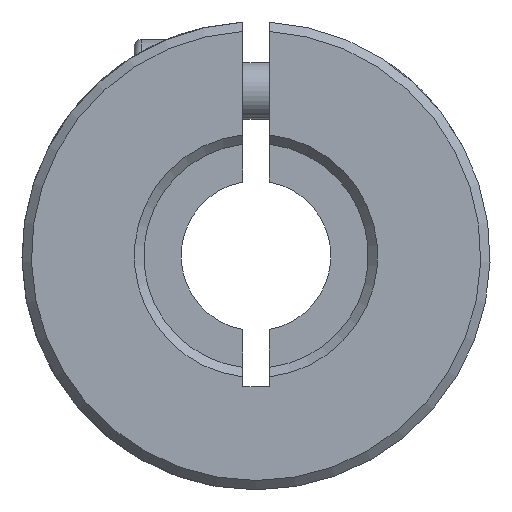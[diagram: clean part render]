
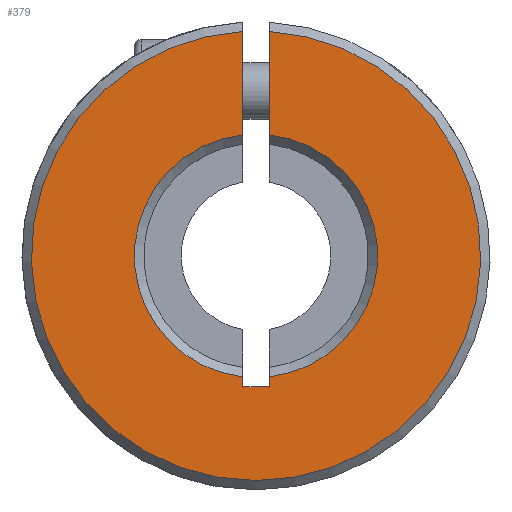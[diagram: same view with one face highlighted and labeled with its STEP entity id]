
A CAD part, front view. The second image highlights one B-rep face of the part: STEP entity #379.
In plain terms, the highlighted planar face has unit normal (0, -1, 0).
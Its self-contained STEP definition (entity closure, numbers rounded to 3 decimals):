
#158 = DIRECTION ( 'NONE',  ( 0., 0., -1. ) ) ;
#184 = ORIENTED_EDGE ( 'NONE', *, *, #1546, .T. ) ;
#379 = ADVANCED_FACE ( 'NONE', ( #5169 ), #4338, .F. ) ;
#404 = AXIS2_PLACEMENT_3D ( 'NONE', #477, #4223, #2940 ) ;
#458 = VECTOR ( 'NONE', #2277, 1000. ) ;
#477 = CARTESIAN_POINT ( 'NONE',  ( 0., 0.25, 0. ) ) ;
#501 = EDGE_CURVE ( 'NONE', #1963, #2064, #3948, .T. ) ;
#577 = CIRCLE ( 'NONE', #404, 12. ) ;
#651 = VERTEX_POINT ( 'NONE', #2440 ) ;
#687 = CARTESIAN_POINT ( 'NONE',  ( -0.7, 0.25, 6.462 ) ) ;
#747 = DIRECTION ( 'NONE',  ( 1., 0., 0. ) ) ;
#777 = DIRECTION ( 'NONE',  ( 0., 0., 1. ) ) ;
#891 = DIRECTION ( 'NONE',  ( 0., 0., 1. ) ) ;
#1122 = EDGE_CURVE ( 'NONE', #2816, #4533, #2899, .T. ) ;
#1134 = DIRECTION ( 'NONE',  ( 0., 0., 1. ) ) ;
#1153 = LINE ( 'NONE', #3610, #2734 ) ;
#1154 = CARTESIAN_POINT ( 'NONE',  ( -0.7, 0.25, 11.98 ) ) ;
#1195 = VECTOR ( 'NONE', #158, 1000. ) ;
#1226 = DIRECTION ( 'NONE',  ( 0., 1., 0. ) ) ;
#1260 = EDGE_CURVE ( 'NONE', #4993, #651, #1435, .T. ) ;
#1352 = EDGE_LOOP ( 'NONE', ( #3077, #184, #5365, #4728, #3607, #5105, #5153, #1708 ) ) ;
#1358 = LINE ( 'NONE', #1786, #1793 ) ;
#1361 = CARTESIAN_POINT ( 'NONE',  ( 0.7, 0.25, 11.98 ) ) ;
#1424 = EDGE_CURVE ( 'NONE', #5100, #4993, #1153, .T. ) ;
#1435 = LINE ( 'NONE', #5270, #458 ) ;
#1546 = EDGE_CURVE ( 'NONE', #1963, #651, #3946, .T. ) ;
#1602 = CARTESIAN_POINT ( 'NONE',  ( 0., 0.25, 0. ) ) ;
#1708 = ORIENTED_EDGE ( 'NONE', *, *, #3767, .T. ) ;
#1749 = LINE ( 'NONE', #4241, #1195 ) ;
#1786 = CARTESIAN_POINT ( 'NONE',  ( -0.7, 0.25, -7. ) ) ;
#1793 = VECTOR ( 'NONE', #4704, 1000. ) ;
#1963 = VERTEX_POINT ( 'NONE', #4119 ) ;
#2064 = VERTEX_POINT ( 'NONE', #1361 ) ;
#2277 = DIRECTION ( 'NONE',  ( 0., 0., 1. ) ) ;
#2440 = CARTESIAN_POINT ( 'NONE',  ( 0.7, 0.25, -6.462 ) ) ;
#2575 = DIRECTION ( 'NONE',  ( 0., 1., 0. ) ) ;
#2734 = VECTOR ( 'NONE', #747, 1000. ) ;
#2816 = VERTEX_POINT ( 'NONE', #4078 ) ;
#2899 = CIRCLE ( 'NONE', #3509, 6.5 ) ;
#2907 = AXIS2_PLACEMENT_3D ( 'NONE', #2988, #1226, #3334 ) ;
#2940 = DIRECTION ( 'NONE',  ( 0., 0., 1. ) ) ;
#2988 = CARTESIAN_POINT ( 'NONE',  ( 0., 0.25, 0. ) ) ;
#3054 = CARTESIAN_POINT ( 'NONE',  ( 0.7, 0.25, -7. ) ) ;
#3077 = ORIENTED_EDGE ( 'NONE', *, *, #501, .F. ) ;
#3165 = VECTOR ( 'NONE', #1134, 1000. ) ;
#3334 = DIRECTION ( 'NONE',  ( 0., 0., 1. ) ) ;
#3509 = AXIS2_PLACEMENT_3D ( 'NONE', #1602, #2575, #777 ) ;
#3607 = ORIENTED_EDGE ( 'NONE', *, *, #4366, .F. ) ;
#3609 = EDGE_CURVE ( 'NONE', #4159, #4533, #1358, .T. ) ;
#3610 = CARTESIAN_POINT ( 'NONE',  ( 0.7, 0.25, -7. ) ) ;
#3767 = EDGE_CURVE ( 'NONE', #4159, #2064, #577, .T. ) ;
#3946 = CIRCLE ( 'NONE', #2907, 6.5 ) ;
#3948 = LINE ( 'NONE', #4472, #3165 ) ;
#4078 = CARTESIAN_POINT ( 'NONE',  ( -0.7, 0.25, -6.462 ) ) ;
#4119 = CARTESIAN_POINT ( 'NONE',  ( 0.7, 0.25, 6.462 ) ) ;
#4159 = VERTEX_POINT ( 'NONE', #1154 ) ;
#4223 = DIRECTION ( 'NONE',  ( 0., -1., 0. ) ) ;
#4241 = CARTESIAN_POINT ( 'NONE',  ( -0.7, 0.25, -7. ) ) ;
#4338 = PLANE ( 'NONE',  #5347 ) ;
#4366 = EDGE_CURVE ( 'NONE', #2816, #5100, #1749, .T. ) ;
#4472 = CARTESIAN_POINT ( 'NONE',  ( 0.7, 0.25, -7. ) ) ;
#4533 = VERTEX_POINT ( 'NONE', #687 ) ;
#4647 = DIRECTION ( 'NONE',  ( 0., 1., 0. ) ) ;
#4704 = DIRECTION ( 'NONE',  ( 0., 0., -1. ) ) ;
#4728 = ORIENTED_EDGE ( 'NONE', *, *, #1424, .F. ) ;
#4993 = VERTEX_POINT ( 'NONE', #3054 ) ;
#5100 = VERTEX_POINT ( 'NONE', #5185 ) ;
#5105 = ORIENTED_EDGE ( 'NONE', *, *, #1122, .T. ) ;
#5153 = ORIENTED_EDGE ( 'NONE', *, *, #3609, .F. ) ;
#5169 = FACE_OUTER_BOUND ( 'NONE', #1352, .T. ) ;
#5185 = CARTESIAN_POINT ( 'NONE',  ( -0.7, 0.25, -7. ) ) ;
#5199 = CARTESIAN_POINT ( 'NONE',  ( 12.5, 0.25, -50. ) ) ;
#5270 = CARTESIAN_POINT ( 'NONE',  ( 0.7, 0.25, -7. ) ) ;
#5347 = AXIS2_PLACEMENT_3D ( 'NONE', #5199, #4647, #891 ) ;
#5365 = ORIENTED_EDGE ( 'NONE', *, *, #1260, .F. ) ;
